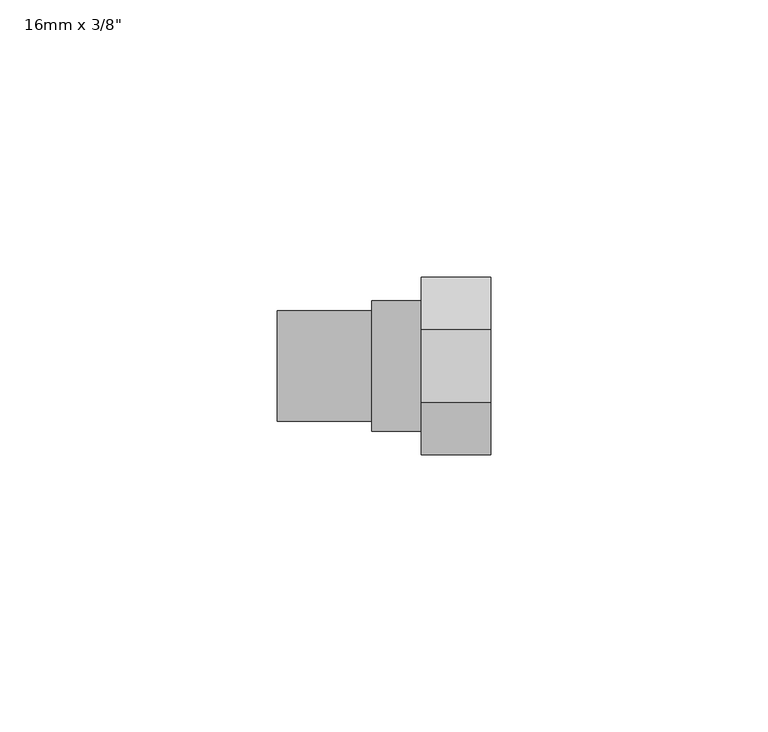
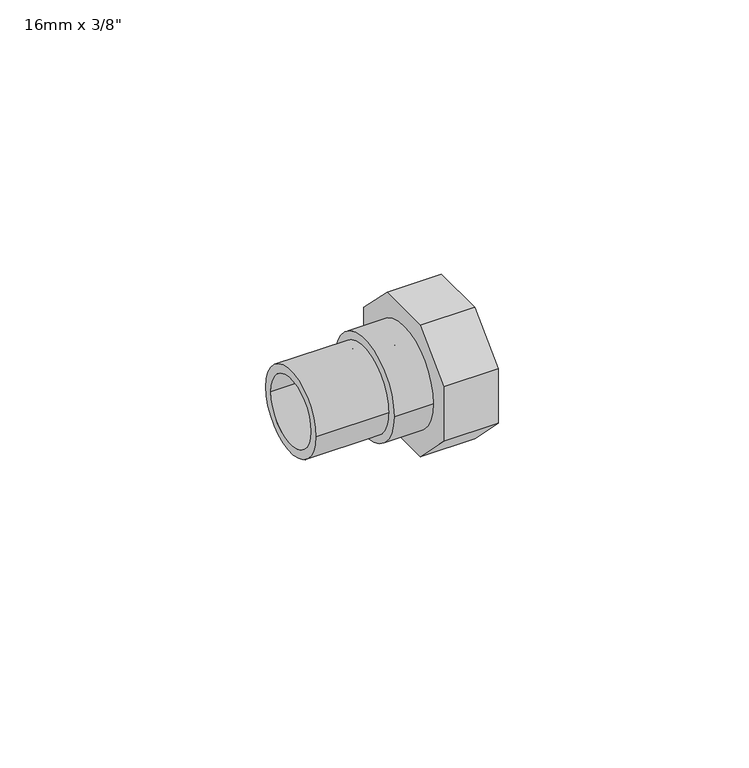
"""IFC4 building model written with IfcOpenShell, lengths in millimetres: pipe fitting geometry."""

from ifc_helpers import new_model, si_unit, point, frame, origin, origin_2d, place, context, project, spatial, polyline, circle_curve, trimmed, segment, composite_curve, outline, extrude, source, transform, mapped, element, save
from ifc_brep_helpers import plane_surface, revolved_surface, advanced_brep


def pipe_fitting_e89df3ce(model_context):
    return source(origin(), model_context, "Body", "SolidModel", [
        extrude(outline(composite_curve([segment(trimmed(circle_curve(origin_2d(), 11.75), [point((-11.75, 0.0))], [point((11.75, 0.0))], False, "CARTESIAN"), True, "CONTINUOUS"), segment(trimmed(circle_curve(origin_2d(), 11.75), [point((11.75, 0.0))], [point((-11.75, 0.0))], False, "CARTESIAN"), True, "CONTINUOUS")], self_intersect=False), holes=[composite_curve([segment(trimmed(circle_curve(origin_2d(), 6.0), [point((-6.0, 0.0))], [point((6.0, 0.0))], True, "CARTESIAN"), True, "CONTINUOUS"), segment(trimmed(circle_curve(origin_2d(), 6.0), [point((6.0, 0.0))], [point((-6.0, 0.0))], True, "CARTESIAN"), True, "CONTINUOUS")], self_intersect=False)]), frame((8.5, 0.0, 0.0), z_axis=(1.0, 0.0, 0.0), x_axis=(0.0, 1.0, 0.0)), (0.0, 0.0, 1.0), 9.0),
        advanced_brep(
        [(17.5, 6.627417, 16.0), (17.5, 16.0, 6.627417), (17.5, 16.0, -6.627417), (17.5, 6.627417, -16.0), (17.5, -6.627417, -16.0), (17.5, -16.0, -6.627417), (17.5, -16.0, 6.627417), (17.5, -6.627417, 16.0), (17.5, -6.0, 0.0), (17.5, 6.0, 0.0), (30.0, 6.627417, 16.0), (30.0, -6.627417, 16.0), (30.0, -16.0, 6.627417), (30.0, -16.0, -6.627417), (30.0, -6.627417, -16.0), (30.0, 6.627417, -16.0), (30.0, 16.0, -6.627417), (30.0, 16.0, 6.627417), (30.0, 8.5, 0.0), (30.0, -8.5, 0.0), (29.8, 8.5, 0.0), (29.8, -8.5, 0.0), (29.8, 6.0, 0.0), (29.8, -6.0, 0.0)],
        [
            (0, 1),
            (1, 2),
            (2, 3),
            (3, 4),
            (4, 5),
            (5, 6),
            (6, 7),
            (7, 0),
            (8, 9, circle_curve(frame((17.5, 0.0, 0.0), z_axis=(1.0, 0.0, 0.0), x_axis=(0.0, -1.0, 0.0)), 6.0)),
            (9, 8, circle_curve(frame((17.5, 0.0, 0.0), z_axis=(1.0, 0.0, 0.0), x_axis=(0.0, -1.0, 0.0)), 6.0)),
            (10, 11),
            (11, 12),
            (12, 13),
            (13, 14),
            (14, 15),
            (15, 16),
            (16, 17),
            (17, 10),
            (18, 19, circle_curve(frame((30.0, 0.0, 0.0), z_axis=(-1.0, 0.0, 0.0), x_axis=(0.0, -1.0, 0.0)), 8.5)),
            (19, 18, circle_curve(frame((30.0, 0.0, 0.0), z_axis=(-1.0, 0.0, 0.0), x_axis=(0.0, -1.0, 0.0)), 8.5)),
            (0, 10),
            (17, 1),
            (16, 2),
            (15, 3),
            (14, 4),
            (13, 5),
            (12, 6),
            (11, 7),
            (20, 21, circle_curve(frame((29.8, 0.0, 0.0), z_axis=(1.0, 0.0, 0.0), x_axis=(0.0, -1.0, 0.0)), 8.5)),
            (21, 20, circle_curve(frame((29.8, 0.0, 0.0), z_axis=(1.0, 0.0, 0.0), x_axis=(0.0, -1.0, 0.0)), 8.5)),
            (22, 23, circle_curve(frame((29.8, 0.0, 0.0), z_axis=(-1.0, 0.0, 0.0), x_axis=(0.0, -1.0, 0.0)), 6.0)),
            (23, 22, circle_curve(frame((29.8, 0.0, 0.0), z_axis=(-1.0, 0.0, 0.0), x_axis=(0.0, -1.0, 0.0)), 6.0)),
            (21, 19),
            (18, 20),
            (22, 9),
            (8, 23),
        ],
        [
            plane_surface(frame((17.5, 0.0, 0.0), z_axis=(-1.0, 0.0, 0.0), x_axis=(0.0, 0.0, 1.0))),
            plane_surface(frame((30.0, 0.0, 0.0), z_axis=(1.0, 0.0, 0.0), x_axis=(0.0, 0.0, 1.0))),
            plane_surface(frame((17.5, 6.627417, 16.0), z_axis=(0.0, 0.7071067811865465, 0.7071067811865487), x_axis=(1.0, 0.0, 0.0))),
            plane_surface(frame((17.5, 16.0, 6.627417), z_axis=(0.0, 1.0, 0.0), x_axis=(1.0, 0.0, 0.0))),
            plane_surface(frame((17.5, 16.0, -6.627417), z_axis=(0.0, 0.7071067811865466, -0.7071067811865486), x_axis=(1.0, 0.0, 0.0))),
            plane_surface(frame((17.5, 6.627417, -16.0), z_axis=(0.0, 0.0, -1.0), x_axis=(1.0, 0.0, 0.0))),
            plane_surface(frame((17.5, -6.627417, -16.0), z_axis=(0.0, -0.707106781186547, -0.7071067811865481), x_axis=(1.0, 0.0, 0.0))),
            plane_surface(frame((17.5, -16.0, -6.627417), z_axis=(0.0, -1.0, 0.0), x_axis=(1.0, 0.0, 0.0))),
            plane_surface(frame((17.5, -16.0, 6.627417), z_axis=(0.0, -0.7071067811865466, 0.7071067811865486), x_axis=(1.0, 0.0, 0.0))),
            plane_surface(frame((17.5, -6.627417, 16.0), z_axis=(0.0, 0.0, 1.0), x_axis=(1.0, 0.0, 0.0))),
            plane_surface(frame((29.8, -8.5, 0.0), z_axis=(1.0, 0.0, 0.0), x_axis=(0.0, 0.0, 1.0))),
            revolved_surface(polyline([(29.8, -8.5, 0.0), (30.0, -8.5, 0.0)]), (30.0, 0.0, 0.0), (-1.0, 0.0, 0.0)),
            revolved_surface(polyline([(17.5, -6.0, 0.0), (29.8, -6.0, 0.0)]), (30.0, 0.0, 0.0), (-1.0, 0.0, 0.0)),
        ],
        [
            (0, [[1, 2, 3, 4, 5, 6, 7, 8], [9, 10]]),
            (1, [[11, 12, 13, 14, 15, 16, 17, 18], [19, 20]]),
            (2, [[-1, 21, -18, 22]]),
            (3, [[-2, -22, -17, 23]]),
            (4, [[-3, -23, -16, 24]]),
            (5, [[-4, -24, -15, 25]]),
            (6, [[-5, -25, -14, 26]]),
            (7, [[-6, -26, -13, 27]]),
            (8, [[-7, -27, -12, 28]]),
            (9, [[-8, -28, -11, -21]]),
            (10, [[29, 30], [31, 32]]),
            (11, [[-30, 33, -19, 34]]),
            (11, [[-29, -34, -20, -33]]),
            (12, [[35, -9, 36, -31]]),
            (12, [[-35, -32, -36, -10]]),
        ],
    ),
        extrude(outline(composite_curve([segment(trimmed(circle_curve(origin_2d(), 10.0), [point((-10.0, 0.0))], [point((10.0, 0.0))], False, "CARTESIAN"), True, "CONTINUOUS"), segment(trimmed(circle_curve(origin_2d(), 10.0), [point((10.0, 0.0))], [point((-10.0, 0.0))], False, "CARTESIAN"), True, "CONTINUOUS")], self_intersect=False), holes=[composite_curve([segment(trimmed(circle_curve(origin_2d(), 8.0), [point((-8.0, 0.0))], [point((8.0, 0.0))], True, "CARTESIAN"), True, "CONTINUOUS"), segment(trimmed(circle_curve(origin_2d(), 8.0), [point((8.0, 0.0))], [point((-8.0, 0.0))], True, "CARTESIAN"), True, "CONTINUOUS")], self_intersect=False)]), frame((-8.5, 0.0, 0.0), z_axis=(1.0, 0.0, 0.0), x_axis=(0.0, 1.0, 0.0)), (0.0, 0.0, 1.0), 17.0),
    ])


if __name__ == "__main__":
    model = new_model("IFC4")
    model_context = context("Model", 3, world=origin())
    ifc_project = project(units=[si_unit("LENGTHUNIT", "METRE", prefix="MILLI")], contexts=[model_context])
    site = spatial("IfcSite", under=ifc_project)
    building = spatial("IfcBuilding", under=site)
    placement = place(None, origin())
    pipe_fitting_shape = pipe_fitting_e89df3ce(model_context)
    element("IfcPipeFitting", 1, ObjectType="PipeFitting_HTA_CPVC_ThreadedAdaptors : 16mm x 3/8\"", at=placement, inside=building, context=model_context, shape_type="MappedRepresentation", body=[
        mapped(pipe_fitting_shape, transform((0.0, 0.0, 0.0), x_axis=(1.0, 0.0, 0.0), y_axis=(0.0, 1.0, 0.0), z_axis=(0.0, 0.0, 1.0))),
    ])
    save(model, "model.ifc")
